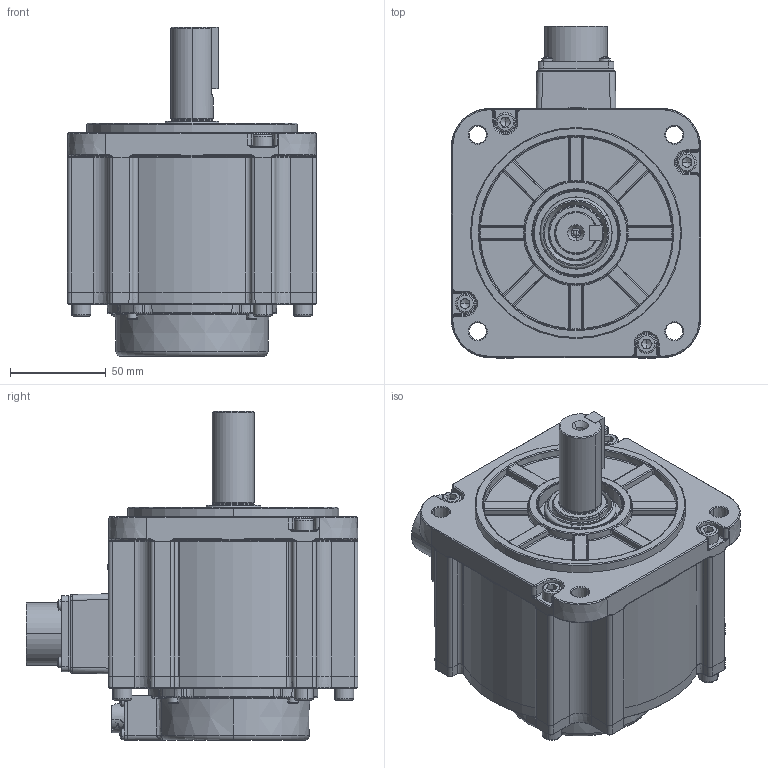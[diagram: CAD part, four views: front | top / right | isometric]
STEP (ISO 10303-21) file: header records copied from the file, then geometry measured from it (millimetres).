
FILE_DESCRIPTION (( 'STEP AP203' ), '1' );
FILE_NAME ('4031310-[][][][]_130µç»ú_DM1S-10A130[]8S.STEP', '2020-06-06T00:53:18', ( '' ), ( '' ), 'SwSTEP 2.0', 'SolidWorks 2018', '' );
FILE_SCHEMA (( 'CONFIG_CONTROL_DESIGN' ));
Length unit declared in the file: millimetre
Products named in the file (1): 4031310-[][][][]_130萇儂_DM1S-10A130[]8S
Bounding box: 130 x 173 x 171.7 mm (x, y, z)
Surface area: 127248.4 mm2 (no closed solid volume)
Topology: 0 solids, 46 shells, 1261 faces, 3794 edges, 2451 vertices
Faces by surface type: plane 419, cylinder 295, bspline 211, cone 162, torus 140, sphere 34
Entity records: 50925 total; most frequent: CARTESIAN_POINT 18859, DIRECTION 6610, ORIENTED_EDGE 6300, EDGE_CURVE 3740, AXIS2_PLACEMENT_3D 2519, VERTEX_POINT 2449, VECTOR 1572, LINE 1572
